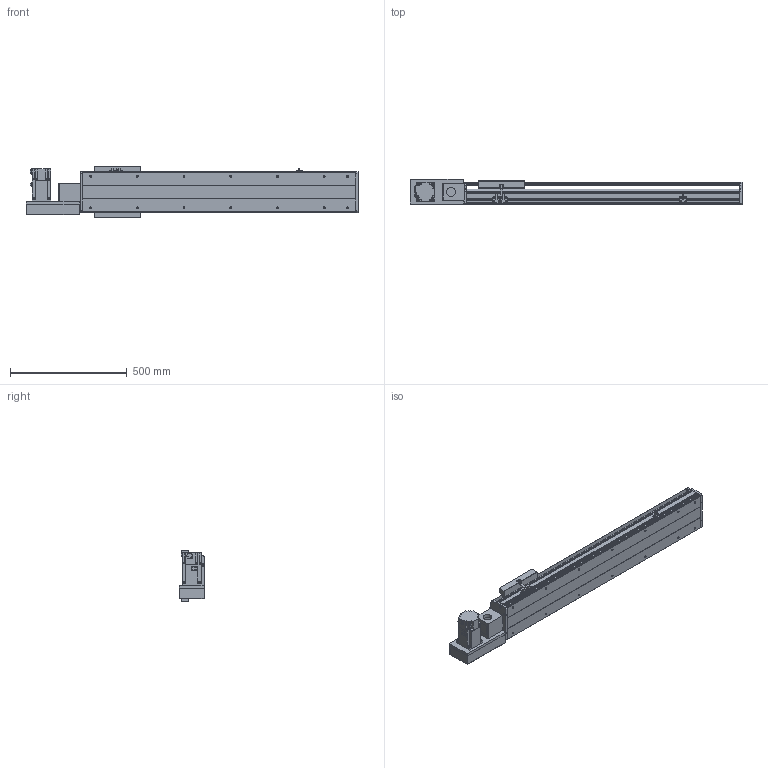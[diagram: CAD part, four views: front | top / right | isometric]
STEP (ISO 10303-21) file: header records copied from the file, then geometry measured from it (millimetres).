
FILE_DESCRIPTION(/* description */ ('STEP AP214'),/* implementation_level */ '2;1');
FILE_NAME(/* name */ 'PBS200-P40-S800-L-T75-C1-N(0)',/* time_stamp */ '2022-06-11T07:48:25+02:00',/* author */ ('License CC BY-ND 4.0'),/* organization */ ('CADENAS'),/* preprocessor_version */ 'ST-DEVELOPER v18.102',/* originating_system */ 'PARTsolutions',/* authorisation */ ' ');
FILE_SCHEMA (('AUTOMOTIVE_DESIGN {1 0 10303 214 3 1 1}'));
Length unit declared in the file: millimetre
Products named in the file (7): PBS200-P40-S800-L-T75-C1-N(0); PBS200_sensor; PBS200_plant; PBS200_sliser; T75-p1; PBS200T-L_motors; PBS200-S800()_body
Assembly tree (8 placements, depth 2):
  PBS200-P40-S800-L-T75-C1-N(0)
    PBS200_sensor  x3
    PBS200_plant
    PBS200_sliser
    T75-p1
    PBS200T-L_motors
    PBS200-S800()_body
Bounding box: 1422 x 109 x 221 mm (x, y, z)
Volume: 9988253.9 mm3; surface area: 1622727.1 mm2
Topology: 8 solids, 8 shells, 914 faces, 2364 edges, 1542 vertices
Faces by surface type: plane 572, cylinder 296, cone 46
Full cylindrical faces by diameter (mm): 2.459 x6, 3.242 x4, 4.5 x6, 4.917 x4, 5 x6, 6 x7, 6.6 x8, 6.647 x18, 8 x6, 10 x4, 12 x8, 38 x2, 40 x1, 70 x1
Entity records: 24461 total; most frequent: DIRECTION 4303, CARTESIAN_POINT 4174, ORIENTED_EDGE 3970, EDGE_CURVE 1985, AXIS2_PLACEMENT_3D 1495, VERTEX_POINT 1366, LINE 1313, VECTOR 1313
